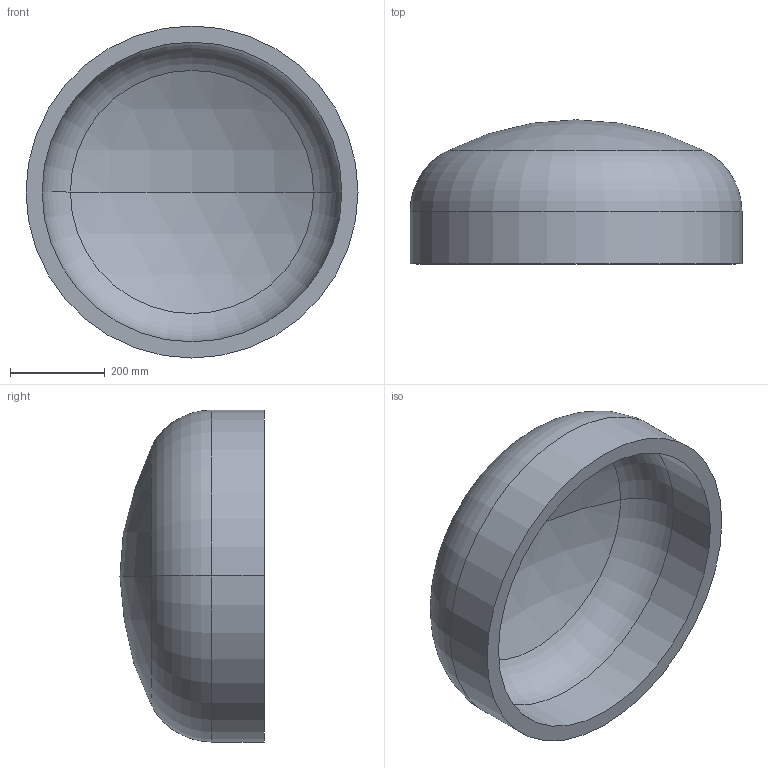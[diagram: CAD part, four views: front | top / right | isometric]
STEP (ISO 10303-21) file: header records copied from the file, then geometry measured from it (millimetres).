
FILE_DESCRIPTION (( 'STEP AP203' ), '1' );
FILE_NAME ('DIN 28013 Korbbogenform_-_Boden DIN 28013 - 700 x 110 - I - s=34.step', '2016-07-01T08:06:54', ( '' ), ( '' ), 'SwSTEP 2.0', 'SolidWorks 2013', '' );
FILE_SCHEMA (( 'CONFIG_CONTROL_DESIGN' ));
Length unit declared in the file: millimetre
Products named in the file (1): DIN 28013 Korbbogenform_-_Boden DIN 28013 - 700 x 110 - I - s=34
Bounding box: 700 x 303.92 x 700 mm (x, y, z)
Volume: 24920656.9 mm3; surface area: 1539480 mm2
Topology: 1 solids, 1 shells, 13 faces, 24 edges, 14 vertices
Faces by surface type: torus 4, cylinder 4, sphere 4, plane 1
Entity records: 407 total; most frequent: DIRECTION 72, CARTESIAN_POINT 52, ORIENTED_EDGE 48, AXIS2_PLACEMENT_3D 34, EDGE_CURVE 24, CIRCLE 20, EDGE_LOOP 14, VERTEX_POINT 14
